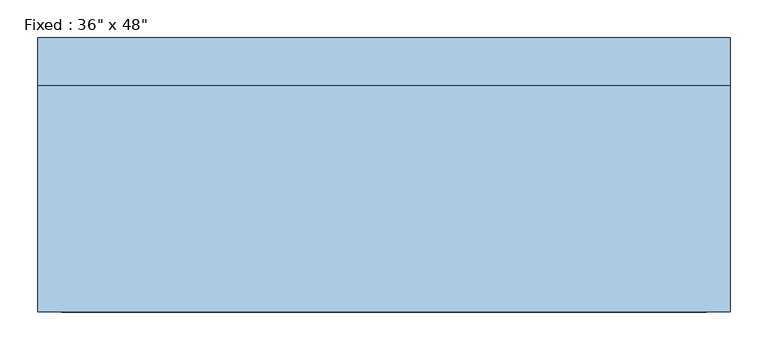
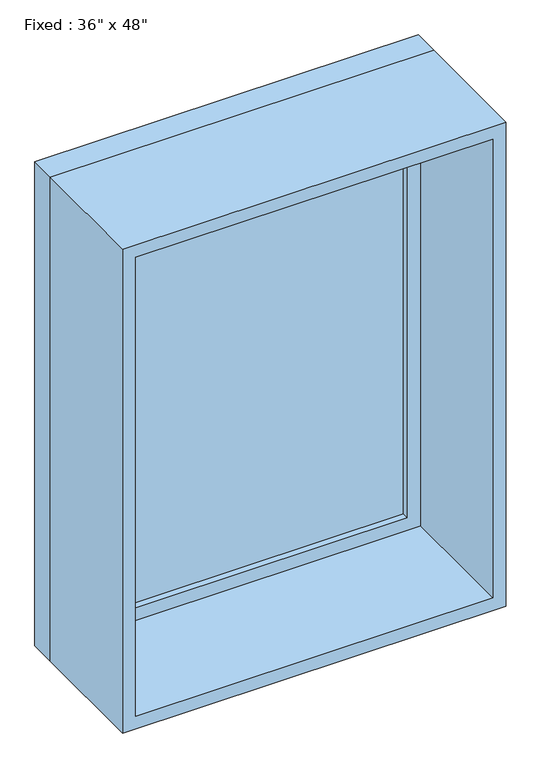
"""IFC4 building model written with IfcOpenShell, lengths in millimetres: window geometry."""

from ifc_helpers import new_model, si_unit, frame, origin, place, context, project, spatial, polyline, outline, extrude, source, transform, mapped, element, save


def window_a227ee85(model_context):
    return source(origin(), model_context, "Body", "SweptSolid", [
        extrude(outline(polyline([(355.6, 133.35), (-431.8, 133.35), (-431.8, 146.05), (355.6, 146.05), (355.6, 133.35)])), frame((0.0, 0.0, 977.9), z_axis=(0.0, 0.0, 1.0), x_axis=(1.0, 0.0, 0.0)), (0.0, 0.0, 1.0), 1092.2),
        extrude(outline(polyline([(2114.55, -476.25), (933.45, -476.25), (933.45, 400.05), (2114.55, 400.05), (2114.55, -476.25)]), holes=[polyline([(2070.1, -431.8), (2070.1, 355.6), (977.9, 355.6), (977.9, -431.8), (2070.1, -431.8)])]), frame((0.0, 117.475, 0.0), z_axis=(0.0, 1.0, 0.0), x_axis=(0.0, 0.0, 1.0)), (0.0, 0.0, 1.0), 44.45),
        extrude(outline(polyline([(2133.6, -495.3), (914.4, -495.3), (914.4, 419.1), (2133.6, 419.1), (2133.6, -495.3)]), holes=[polyline([(2101.85, -463.55), (2101.85, 387.35), (946.15, 387.35), (946.15, -463.55), (2101.85, -463.55)])]), frame((0.0, -180.975, 0.0), z_axis=(0.0, 1.0, 0.0), x_axis=(0.0, 0.0, 1.0)), (0.0, 0.0, 1.0), 298.45),
        extrude(outline(polyline([(2133.6, 419.1), (2133.6, -495.3), (914.4, -495.3), (914.4, 419.1), (2133.6, 419.1)]), holes=[polyline([(2114.55, 400.05), (933.45, 400.05), (933.45, -476.25), (2114.55, -476.25), (2114.55, 400.05)])]), frame((0.0, 117.475, 0.0), z_axis=(0.0, 1.0, 0.0), x_axis=(0.0, 0.0, 1.0)), (0.0, 0.0, 1.0), 63.5),
    ])


if __name__ == "__main__":
    model = new_model("IFC4")
    model_context = context("Model", 3, world=origin())
    ifc_project = project(units=[si_unit("LENGTHUNIT", "METRE", prefix="MILLI")], contexts=[model_context])
    site = spatial("IfcSite", under=ifc_project)
    building = spatial("IfcBuilding", under=site)
    placement = place(None, origin())
    window_shape = window_a227ee85(model_context)
    element("IfcWindow", 1, ObjectType="Fixed : 36\" x 48\"", at=placement, inside=building, context=model_context, shape_type="MappedRepresentation", body=[
        mapped(window_shape, transform((0.0, 0.0, 0.0), x_axis=(1.0, 0.0, 0.0), y_axis=(0.0, 1.0, 0.0), z_axis=(0.0, 0.0, 1.0))),
    ])
    save(model, "model.ifc")
